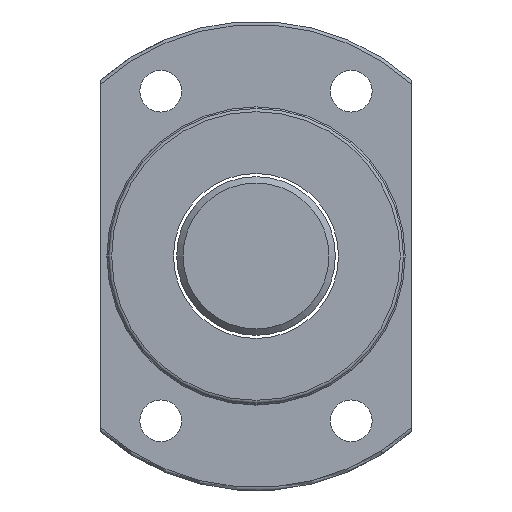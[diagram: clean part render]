
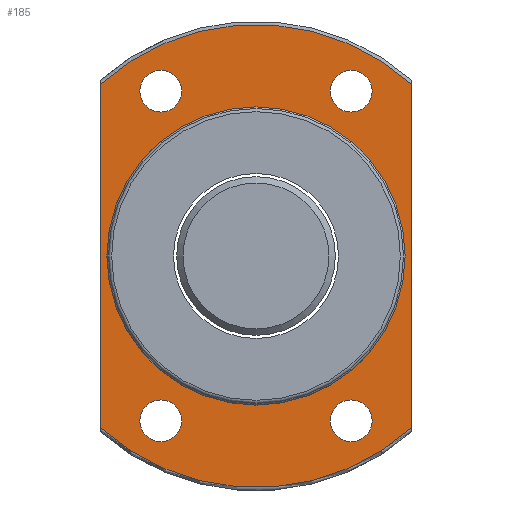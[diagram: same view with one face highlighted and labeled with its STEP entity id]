
A CAD part, left-side view. The second image highlights one B-rep face of the part: STEP entity #185.
In plain terms, the highlighted planar face has unit normal (-1, 0, 0).
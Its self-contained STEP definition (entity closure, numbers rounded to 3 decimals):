
#97=LINE('',#977,#105);
#98=LINE('',#979,#106);
#105=VECTOR('',#746,1.);
#106=VECTOR('',#747,1.);
#143=PLANE('',#642);
#160=FACE_OUTER_BOUND('',#300,.T.);
#185=ADVANCED_FACE('',(#160,#237,#238,#239,#240,#241),#143,.T.);
#237=FACE_BOUND('',#301,.T.);
#238=FACE_BOUND('',#302,.T.);
#239=FACE_BOUND('',#303,.T.);
#240=FACE_BOUND('',#304,.T.);
#241=FACE_BOUND('',#305,.T.);
#300=EDGE_LOOP('',(#383,#384,#385,#386));
#301=EDGE_LOOP('',(#387));
#302=EDGE_LOOP('',(#388));
#303=EDGE_LOOP('',(#389));
#304=EDGE_LOOP('',(#390));
#305=EDGE_LOOP('',(#391));
#383=ORIENTED_EDGE('',*,*,#531,.F.);
#384=ORIENTED_EDGE('',*,*,#524,.F.);
#385=ORIENTED_EDGE('',*,*,#532,.T.);
#386=ORIENTED_EDGE('',*,*,#533,.F.);
#387=ORIENTED_EDGE('',*,*,#534,.T.);
#388=ORIENTED_EDGE('',*,*,#535,.F.);
#389=ORIENTED_EDGE('',*,*,#536,.F.);
#390=ORIENTED_EDGE('',*,*,#537,.F.);
#391=ORIENTED_EDGE('',*,*,#538,.F.);
#474=VERTEX_POINT('',#904);
#476=VERTEX_POINT('',#926);
#481=VERTEX_POINT('',#978);
#482=VERTEX_POINT('',#980);
#483=VERTEX_POINT('',#983);
#484=VERTEX_POINT('',#985);
#485=VERTEX_POINT('',#987);
#486=VERTEX_POINT('',#989);
#487=VERTEX_POINT('',#991);
#524=EDGE_CURVE('',#476,#474,#578,.T.);
#531=EDGE_CURVE('',#474,#481,#97,.T.);
#532=EDGE_CURVE('',#476,#482,#98,.T.);
#533=EDGE_CURVE('',#481,#482,#581,.T.);
#534=EDGE_CURVE('',#483,#483,#582,.T.);
#535=EDGE_CURVE('',#484,#484,#583,.T.);
#536=EDGE_CURVE('',#485,#485,#584,.T.);
#537=EDGE_CURVE('',#486,#486,#585,.T.);
#538=EDGE_CURVE('',#487,#487,#586,.T.);
#578=CIRCLE('',#630,36.5);
#581=CIRCLE('',#636,36.5);
#582=CIRCLE('',#637,23.5);
#583=CIRCLE('',#638,3.3);
#584=CIRCLE('',#639,3.3);
#585=CIRCLE('',#640,3.3);
#586=CIRCLE('',#641,3.3);
#630=AXIS2_PLACEMENT_3D('',#927,#732,#733);
#636=AXIS2_PLACEMENT_3D('',#981,#748,#749);
#637=AXIS2_PLACEMENT_3D('',#982,#750,#751);
#638=AXIS2_PLACEMENT_3D('',#984,#752,#753);
#639=AXIS2_PLACEMENT_3D('',#986,#754,#755);
#640=AXIS2_PLACEMENT_3D('',#988,#756,#757);
#641=AXIS2_PLACEMENT_3D('',#990,#758,#759);
#642=AXIS2_PLACEMENT_3D('',#992,#760,#761);
#732=DIRECTION('',(1.,0.,0.));
#733=DIRECTION('',(0.,1.,0.));
#746=DIRECTION('',(0.,0.,1.));
#747=DIRECTION('',(0.,0.,1.));
#748=DIRECTION('',(1.,0.,0.));
#749=DIRECTION('',(0.,1.,0.));
#750=DIRECTION('',(1.,0.,0.));
#751=DIRECTION('',(0.,1.,0.));
#752=DIRECTION('',(-1.,0.,0.));
#753=DIRECTION('',(0.,-1.,0.));
#754=DIRECTION('',(-1.,0.,0.));
#755=DIRECTION('',(0.,-1.,0.));
#756=DIRECTION('',(-1.,0.,0.));
#757=DIRECTION('',(0.,-1.,0.));
#758=DIRECTION('',(-1.,0.,0.));
#759=DIRECTION('',(0.,-1.,0.));
#760=DIRECTION('',(-1.,0.,0.));
#761=DIRECTION('',(0.,-1.,0.));
#904=CARTESIAN_POINT('',(-41.,24.5,-27.055));
#926=CARTESIAN_POINT('',(-41.,-24.5,-27.055));
#927=CARTESIAN_POINT('',(-41.,0.,0.));
#977=CARTESIAN_POINT('',(-41.,24.5,0.));
#978=CARTESIAN_POINT('',(-41.,24.5,27.055));
#979=CARTESIAN_POINT('',(-41.,-24.5,0.));
#980=CARTESIAN_POINT('',(-41.,-24.5,27.055));
#981=CARTESIAN_POINT('',(-41.,0.,0.));
#982=CARTESIAN_POINT('',(-41.,0.,0.));
#983=CARTESIAN_POINT('',(-41.,23.5,0.));
#984=CARTESIAN_POINT('',(-41.,15.,25.98));
#985=CARTESIAN_POINT('',(-41.,11.7,25.98));
#986=CARTESIAN_POINT('',(-41.,-15.,25.98));
#987=CARTESIAN_POINT('',(-41.,-18.3,25.98));
#988=CARTESIAN_POINT('',(-41.,-15.,-25.98));
#989=CARTESIAN_POINT('',(-41.,-18.3,-25.98));
#990=CARTESIAN_POINT('',(-41.,15.,-25.98));
#991=CARTESIAN_POINT('',(-41.,11.7,-25.98));
#992=CARTESIAN_POINT('',(-41.,30.,0.));
